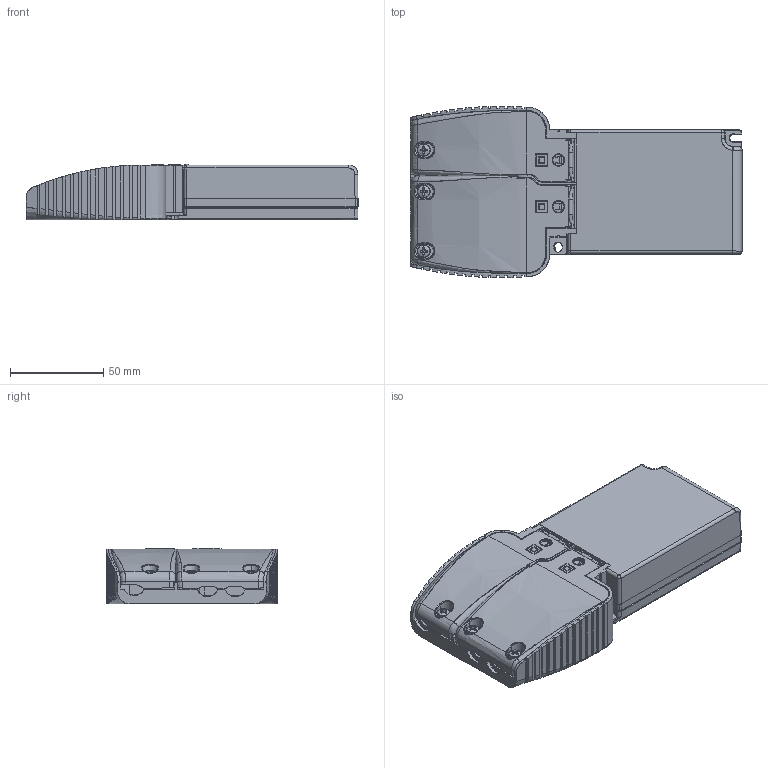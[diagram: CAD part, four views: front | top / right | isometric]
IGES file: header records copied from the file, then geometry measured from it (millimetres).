
Start section: SolidWorks IGES file using analytic representation for surfaces
Global section: file name: C:\Users\Public\HAOSENSOFTWARE\YFTSolidWorksArasPLM-V3.1.3-2023-beta\SaveAs_files\9C1-4553334-000-00.IGS; native system: SolidWorks 2023; preprocessor: SolidWorks 2023; author: P.SACHSENWEGER; date: 251126.115148; units: millimetre
Bounding box: 178.42 x 92.07 x 30.03 mm (x, y, z)
Surface area: 85742.7 mm2 (no closed solid volume)
Topology: 0 solids, 0 shells, 2388 faces, 21136 edges, 21111 vertices
Faces by surface type: bspline 1708, revolution 680
